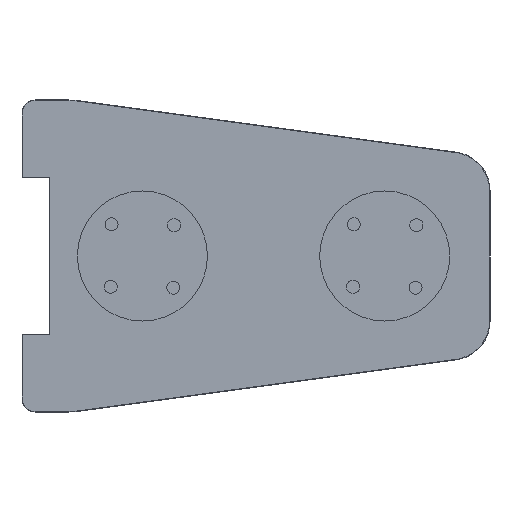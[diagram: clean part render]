
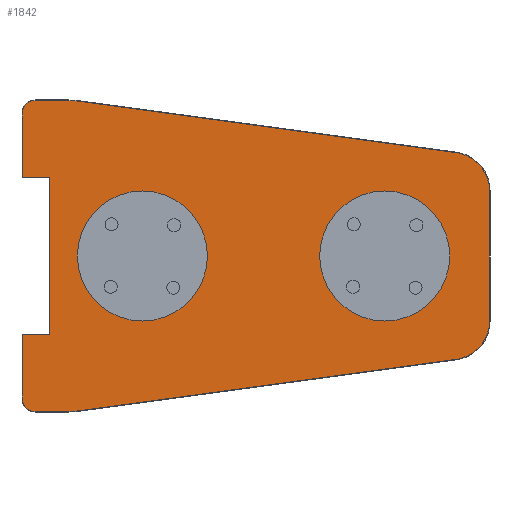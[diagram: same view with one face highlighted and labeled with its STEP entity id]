
A CAD part, front view. The second image highlights one B-rep face of the part: STEP entity #1842.
In plain terms, the highlighted planar face has unit normal (0, -1, 0).
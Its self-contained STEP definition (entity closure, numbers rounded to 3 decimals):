
#162=PLANE('',#2106);
#272=FACE_OUTER_BOUND('',#412,.T.);
#412=EDGE_LOOP('',(#1551,#1552,#1553,#1554,#1555,#1556,#1557,#1558,#1559,
#1560,#1561,#1562,#1563,#1564,#1565,#1566,#1567,#1568));
#496=LINE('',#3055,#610);
#499=LINE('',#3152,#613);
#500=LINE('',#3207,#614);
#503=LINE('',#3219,#617);
#505=LINE('',#3222,#619);
#509=LINE('',#3244,#623);
#511=LINE('',#3250,#625);
#513=LINE('',#3259,#627);
#541=LINE('',#3571,#655);
#543=LINE('',#3577,#657);
#610=VECTOR('',#2359,10.);
#613=VECTOR('',#2390,10.);
#614=VECTOR('',#2401,10.);
#617=VECTOR('',#2416,10.);
#619=VECTOR('',#2420,10.);
#623=VECTOR('',#2446,10.);
#625=VECTOR('',#2452,10.);
#627=VECTOR('',#2464,10.);
#655=VECTOR('',#2600,10.);
#657=VECTOR('',#2606,10.);
#730=CIRCLE('',#1994,148.);
#735=CIRCLE('',#2001,4.);
#738=CIRCLE('',#2005,248.);
#741=CIRCLE('',#2009,4.);
#749=CIRCLE('',#2021,48.);
#760=CIRCLE('',#2040,48.);
#789=CIRCLE('',#2093,248.);
#793=CIRCLE('',#2100,148.);
#868=VERTEX_POINT('',#2959);
#869=VERTEX_POINT('',#3003);
#872=VERTEX_POINT('',#3010);
#873=VERTEX_POINT('',#3054);
#877=VERTEX_POINT('',#3074);
#878=VERTEX_POINT('',#3076);
#881=VERTEX_POINT('',#3083);
#882=VERTEX_POINT('',#3127);
#885=VERTEX_POINT('',#3145);
#886=VERTEX_POINT('',#3147);
#889=VERTEX_POINT('',#3157);
#891=VERTEX_POINT('',#3162);
#892=VERTEX_POINT('',#3206);
#894=VERTEX_POINT('',#3212);
#902=VERTEX_POINT('',#3239);
#903=VERTEX_POINT('',#3246);
#905=VERTEX_POINT('',#3252);
#941=VERTEX_POINT('',#3573);
#1044=EDGE_CURVE('',#868,#869,#730,.T.);
#1048=EDGE_CURVE('',#872,#873,#496,.T.);
#1053=EDGE_CURVE('',#877,#878,#735,.T.);
#1057=EDGE_CURVE('',#881,#882,#738,.T.);
#1061=EDGE_CURVE('',#885,#886,#741,.T.);
#1064=EDGE_CURVE('',#878,#885,#499,.T.);
#1069=EDGE_CURVE('',#891,#892,#500,.T.);
#1074=EDGE_CURVE('',#892,#894,#749,.T.);
#1076=EDGE_CURVE('',#894,#889,#503,.T.);
#1078=EDGE_CURVE('',#889,#877,#505,.T.);
#1089=EDGE_CURVE('',#886,#902,#509,.T.);
#1092=EDGE_CURVE('',#902,#903,#511,.T.);
#1095=EDGE_CURVE('',#903,#905,#760,.T.);
#1097=EDGE_CURVE('',#905,#881,#513,.T.);
#1158=EDGE_CURVE('',#873,#891,#789,.T.);
#1161=EDGE_CURVE('',#882,#868,#541,.T.);
#1164=EDGE_CURVE('',#869,#941,#543,.T.);
#1166=EDGE_CURVE('',#941,#872,#793,.T.);
#1551=ORIENTED_EDGE('',*,*,#1069,.F.);
#1552=ORIENTED_EDGE('',*,*,#1158,.F.);
#1553=ORIENTED_EDGE('',*,*,#1048,.F.);
#1554=ORIENTED_EDGE('',*,*,#1166,.F.);
#1555=ORIENTED_EDGE('',*,*,#1164,.F.);
#1556=ORIENTED_EDGE('',*,*,#1044,.F.);
#1557=ORIENTED_EDGE('',*,*,#1161,.F.);
#1558=ORIENTED_EDGE('',*,*,#1057,.F.);
#1559=ORIENTED_EDGE('',*,*,#1097,.F.);
#1560=ORIENTED_EDGE('',*,*,#1095,.F.);
#1561=ORIENTED_EDGE('',*,*,#1092,.F.);
#1562=ORIENTED_EDGE('',*,*,#1089,.F.);
#1563=ORIENTED_EDGE('',*,*,#1061,.F.);
#1564=ORIENTED_EDGE('',*,*,#1064,.F.);
#1565=ORIENTED_EDGE('',*,*,#1053,.F.);
#1566=ORIENTED_EDGE('',*,*,#1078,.F.);
#1567=ORIENTED_EDGE('',*,*,#1076,.F.);
#1568=ORIENTED_EDGE('',*,*,#1074,.F.);
#1842=ADVANCED_FACE('',(#272),#162,.F.);
#1994=AXIS2_PLACEMENT_3D('',#3004,#2351,#2352);
#2001=AXIS2_PLACEMENT_3D('',#3077,#2367,#2368);
#2005=AXIS2_PLACEMENT_3D('',#3128,#2375,#2376);
#2009=AXIS2_PLACEMENT_3D('',#3148,#2383,#2384);
#2021=AXIS2_PLACEMENT_3D('',#3216,#2411,#2412);
#2040=AXIS2_PLACEMENT_3D('',#3256,#2459,#2460);
#2093=AXIS2_PLACEMENT_3D('',#3567,#2593,#2594);
#2100=AXIS2_PLACEMENT_3D('',#3580,#2611,#2612);
#2106=AXIS2_PLACEMENT_3D('',#3590,#2627,#2628);
#2351=DIRECTION('center_axis',(0.,1.,0.));
#2352=DIRECTION('ref_axis',(0.758,0.,0.652));
#2359=DIRECTION('',(-0.991,0.,-0.135));
#2367=DIRECTION('center_axis',(0.,-1.,0.));
#2368=DIRECTION('ref_axis',(0.707,0.,-0.707));
#2375=DIRECTION('center_axis',(0.,1.,0.));
#2376=DIRECTION('ref_axis',(0.074,0.,0.997));
#2383=DIRECTION('center_axis',(0.,-1.,0.));
#2384=DIRECTION('ref_axis',(0.707,0.,0.707));
#2390=DIRECTION('',(0.,0.,1.));
#2401=DIRECTION('',(-1.,0.,0.));
#2411=DIRECTION('center_axis',(0.,1.,0.));
#2412=DIRECTION('ref_axis',(-0.707,0.,-0.707));
#2416=DIRECTION('',(0.,0.,1.));
#2420=DIRECTION('',(1.,0.,0.));
#2446=DIRECTION('',(-1.,0.,0.));
#2452=DIRECTION('',(0.,0.,1.));
#2459=DIRECTION('center_axis',(0.,1.,0.));
#2460=DIRECTION('ref_axis',(-0.707,0.,0.707));
#2464=DIRECTION('',(1.,0.,0.));
#2593=DIRECTION('center_axis',(0.,1.,0.));
#2594=DIRECTION('ref_axis',(0.074,0.,-0.997));
#2600=DIRECTION('',(0.991,0.,-0.135));
#2606=DIRECTION('',(0.,0.,-1.));
#2611=DIRECTION('center_axis',(0.,1.,0.));
#2612=DIRECTION('ref_axis',(0.758,0.,-0.652));
#2627=DIRECTION('center_axis',(0.,1.,0.));
#2628=DIRECTION('ref_axis',(0.,0.,1.));
#2959=CARTESIAN_POINT('',(1671.991,0.,397.2));
#3003=CARTESIAN_POINT('',(1797.843,0.,250.844));
#3004=CARTESIAN_POINT('Origin',(1649.843,0.,250.867));
#3010=CARTESIAN_POINT('',(1671.991,0.,-397.2));
#3054=CARTESIAN_POINT('',(221.707,0.,-594.885));
#3055=CARTESIAN_POINT('',(1319.582,0.,-445.236));
#3074=CARTESIAN_POINT('',(103.,0.,-302.5));
#3076=CARTESIAN_POINT('',(107.,0.,-298.5));
#3077=CARTESIAN_POINT('Origin',(103.,0.,-298.5));
#3083=CARTESIAN_POINT('',(180.01,0.,598.));
#3127=CARTESIAN_POINT('',(221.707,0.,594.886));
#3128=CARTESIAN_POINT('Origin',(182.452,0.,350.012));
#3145=CARTESIAN_POINT('',(107.,0.,298.5));
#3147=CARTESIAN_POINT('',(103.,0.,302.5));
#3148=CARTESIAN_POINT('Origin',(103.,0.,298.5));
#3152=CARTESIAN_POINT('',(107.,0.,-150.25));
#3157=CARTESIAN_POINT('',(2.,0.,-302.5));
#3162=CARTESIAN_POINT('',(180.01,0.,-598.));
#3206=CARTESIAN_POINT('',(50.,0.,-598.));
#3207=CARTESIAN_POINT('',(539.961,0.,-598.));
#3212=CARTESIAN_POINT('',(2.,0.,-550.));
#3216=CARTESIAN_POINT('Origin',(50.,0.,-550.));
#3219=CARTESIAN_POINT('',(2.,0.,-275.));
#3222=CARTESIAN_POINT('',(449.961,0.,-302.5));
#3239=CARTESIAN_POINT('',(2.,0.,302.5));
#3244=CARTESIAN_POINT('',(502.461,0.,302.5));
#3246=CARTESIAN_POINT('',(2.,0.,550.));
#3250=CARTESIAN_POINT('',(2.,0.,150.25));
#3252=CARTESIAN_POINT('',(50.,0.,598.));
#3256=CARTESIAN_POINT('Origin',(50.,0.,550.));
#3259=CARTESIAN_POINT('',(474.961,0.,598.));
#3567=CARTESIAN_POINT('Origin',(182.451,0.,-350.012));
#3571=CARTESIAN_POINT('',(594.444,0.,544.078));
#3573=CARTESIAN_POINT('',(1797.843,0.,-250.843));
#3577=CARTESIAN_POINT('',(1797.843,0.,125.422));
#3580=CARTESIAN_POINT('Origin',(1649.843,0.,-250.867));
#3590=CARTESIAN_POINT('Origin',(899.921,0.,0.));
